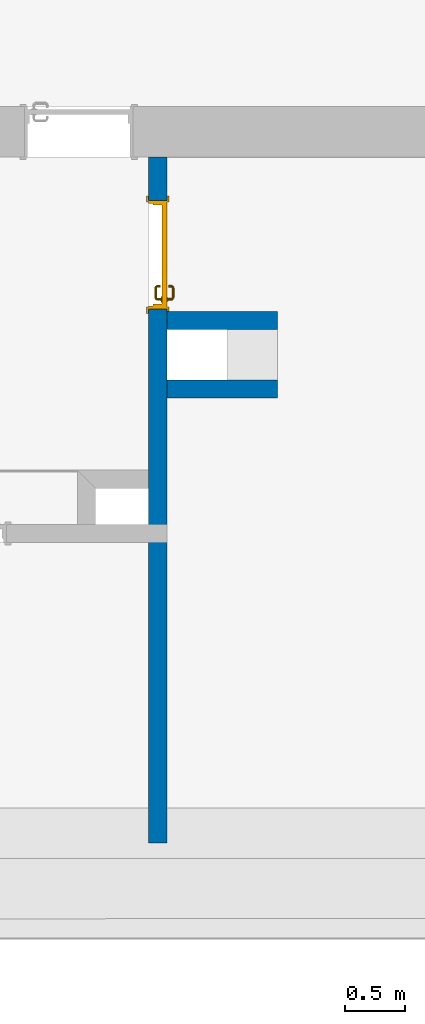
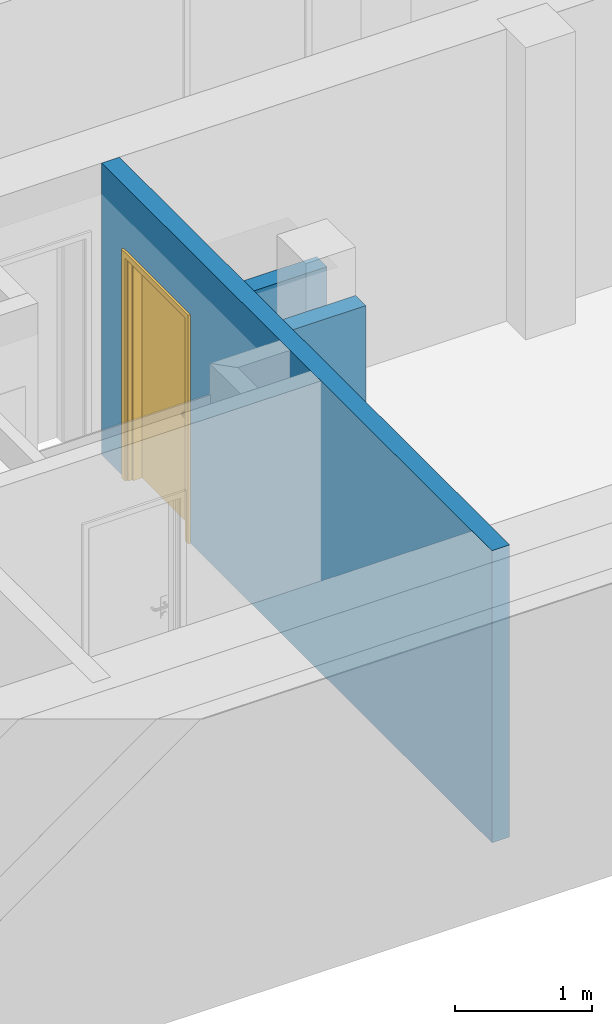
# One storey, part 12 of 127: 3 walls, 1 door, 1 opening.
"""IFC2X3 building model written with IfcOpenShell, lengths in millimetres."""

from ifc_helpers import new_model, entity, si_unit, converted_unit, derived_unit, money_unit, direction, frame, origin_with_axes, origin_2d_with_axis, place, context, subcontext, project, spatial, polyline, rectangle, outline, extrude, open_shell, faceted_brep, surface_model, source, transform, mapped, material, layer, layer_set, layer_usage, type_object, element, fill, save


model = new_model("IFC2X3")

# Units and contexts
model_context = context("Model", 3, precision=1e-05, world=origin_with_axes(), true_north=direction((0.0, 1.0)))
body_context = subcontext(model_context, "Body", "Model", "MODEL_VIEW")
ifc_project = project(units=[si_unit("LENGTHUNIT", "METRE", prefix="MILLI"), si_unit("AREAUNIT", "SQUARE_METRE"), si_unit("VOLUMEUNIT", "CUBIC_METRE"), converted_unit("PLANEANGLEUNIT", "DEGREE", entity("IfcPlaneAngleMeasure", 0.0174532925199), si_unit("PLANEANGLEUNIT", "RADIAN"), dimensions=[0, 0, 0, 0, 0, 0, 0]), si_unit("SOLIDANGLEUNIT", "STERADIAN"), money_unit("EUR"), converted_unit("TIMEUNIT", "Year", entity("IfcTimeMeasure", 31556926.0), si_unit("TIMEUNIT", "SECOND"), dimensions=[0, 0, 1, 0, 0, 0, 0]), si_unit("MASSUNIT", "GRAM", prefix="KILO"), si_unit("THERMODYNAMICTEMPERATUREUNIT", "DEGREE_CELSIUS"), si_unit("LUMINOUSINTENSITYUNIT", "LUMEN"), si_unit("ENERGYUNIT", "JOULE", prefix="MEGA"), derived_unit("THERMALCONDUCTANCEUNIT", [(si_unit("POWERUNIT", "WATT"), 1), (si_unit("LENGTHUNIT", "METRE"), -1), (si_unit("THERMODYNAMICTEMPERATUREUNIT", "KELVIN"), -1)]), derived_unit("SPECIFICHEATCAPACITYUNIT", [(si_unit("ENERGYUNIT", "JOULE"), 1), (si_unit("MASSUNIT", "GRAM", prefix="KILO"), -1), (si_unit("THERMODYNAMICTEMPERATUREUNIT", "KELVIN"), -1)]), derived_unit("MASSDENSITYUNIT", [(si_unit("MASSUNIT", "GRAM", prefix="KILO"), 1), (si_unit("VOLUMEUNIT", "CUBIC_METRE"), -1)])], contexts=[model_context])

# Site, building, storey
site_placement = place(None, origin_with_axes())
site = spatial("IfcSite", under=ifc_project, at=site_placement, Name="Site", CompositionType="ELEMENT")
building_placement = place(site_placement, origin_with_axes())
building = spatial("IfcBuilding", under=site, at=building_placement, Name="Building", CompositionType="ELEMENT")
storey_placement = place(building_placement, origin_with_axes())
storey = spatial("IfcBuildingStorey", under=building, at=storey_placement, Name="1 KORRUS", CompositionType="ELEMENT", Elevation=0.0)

# Wall, opening, door
ifc_material_1 = material(Name="Kivi -Ol.Olev Konstruktsioon")
ifc_layer_1 = layer(ifc_material_1, 150.0, ventilated="UNKNOWN")
ifc_layer_set_1 = layer_set([ifc_layer_1], Name="ol.olev ss 150")
ifc_layer_usage_1 = layer_usage(ifc_layer_set_1, "AXIS2", "POSITIVE", 0.0)
wall_type_1 = type_object("IfcWallType", Name="SW - 036", PredefinedType="NOTDEFINED")
wall_1_placement = place(storey_placement, frame((72327.5755855, 41003.0649281, 0.0), z_axis=(0.0, 0.0, 1.0), x_axis=(0.0, -1.0, 0.0)))
wall_1 = element("IfcWallStandardCase", 1, at=wall_1_placement, inside=storey, type_object=wall_type_1, material=ifc_layer_usage_1, Name="ol.olev ss 150", context=body_context, shape_type="SweptSolid", body=[
    extrude(outline(polyline([(420.0, 0.0), (6112.45494701, 0.0), (6112.44473298, 150.0), (420.0, 150.0), (420.0, 0.0)])), origin_with_axes(), (0.0, 0.0, 1.0), 2600.0),
])
opening_placement = place(wall_1_placement, frame((1229.00000242, 0.0, 0.0), z_axis=(0.0, 0.0, 1.0), x_axis=(1.0, 0.0, 0.0)))
opening = element("IfcOpeningElement", 2, at=opening_placement, cuts=wall_1, Name="Siseuks * Door 22", context=body_context, shape_type="SweptSolid", body=[
    extrude(rectangle(XDim=900.0, YDim=2000.0, at=origin_2d_with_axis()), frame((0.0, -150.0, 1000.0), z_axis=(0.0, -1.0, 0.0), x_axis=(-1.0, 0.0, 0.0)), (0.0, 0.0, -1.0), 450.0),
    extrude(rectangle(XDim=974.0, YDim=2037.0, at=origin_2d_with_axis()), frame((0.0, 0.0, 1018.5), z_axis=(0.0, -1.0, 0.0), x_axis=(-1.0, 0.0, 0.0)), (0.0, 0.0, 1.0), 150.0),
    extrude(rectangle(XDim=974.0, YDim=2037.0, at=origin_2d_with_axis()), frame((0.0, 150.0, 1018.5), z_axis=(0.0, 1.0, 0.0), x_axis=(-1.0, 0.0, 0.0)), (0.0, 0.0, 1.0), 150.0),
])
door_style = type_object("IfcDoorStyle", Name="SU-B126C   900×2\xa0000", ConstructionType="NOTDEFINED", OperationType="SINGLE_SWING_LEFT", ParameterTakesPrecedence=False, Sizeable=False)
shared_shape = source(origin_with_axes(), body_context, "Body", "SurfaceModel", [
    faceted_brep([(450.0, -115.0, 0.0), (450.0, -150.0, 0.0), (425.0, -150.0, 0.0), (425.0, -115.0, 0.0), (450.0, -115.0, 2000.0), (450.0, -150.0, 2000.0), (425.0, -150.0, 1975.0), (425.0, -115.0, 1975.0)], [[[0, 1, 2, 3]], [[4, 5, 1, 0]], [[1, 5, 6, 2]], [[3, 2, 6, 7]], [[0, 3, 7, 4]], [[7, 6, 5, 4]]]),
    faceted_brep([(-450.0, -115.0, 2000.0), (-450.0, -150.0, 2000.0), (-425.0, -150.0, 1975.0), (-425.0, -115.0, 1975.0), (-450.0, -115.0, 0.0), (-450.0, -150.0, 0.0), (-425.0, -150.0, 0.0), (-425.0, -115.0, 0.0)], [[[0, 1, 2, 3]], [[4, 5, 1, 0]], [[1, 5, 6, 2]], [[3, 2, 6, 7]], [[0, 3, 7, 4]], [[7, 6, 5, 4]]]),
    faceted_brep([(425.0, -115.0, 1975.0), (425.0, -150.0, 1975.0), (-425.0, -150.0, 1975.0), (-425.0, -115.0, 1975.0), (450.0, -115.0, 2000.0), (450.0, -150.0, 2000.0), (-450.0, -150.0, 2000.0), (-450.0, -115.0, 2000.0)], [[[0, 1, 2, 3]], [[4, 5, 1, 0]], [[1, 5, 6, 2]], [[3, 2, 6, 7]], [[0, 3, 7, 4]], [[7, 6, 5, 4]]]),
    faceted_brep([(487.0, -169.0, 0.0), (437.0, -169.0, 0.0), (437.0, -150.0, 0.0), (487.0, -150.0, 0.0), (487.0, -169.0, 2037.0), (437.0, -169.0, 1987.0), (437.0, -150.0, 1987.0), (487.0, -150.0, 2037.0)], [[[0, 1, 2, 3]], [[0, 4, 5, 1]], [[1, 5, 6, 2]], [[3, 2, 6, 7]], [[4, 0, 3, 7]], [[5, 4, 7, 6]]]),
    faceted_brep([(-487.0, -169.0, 2037.0), (-437.0, -169.0, 1987.0), (-437.0, -150.0, 1987.0), (-487.0, -150.0, 2037.0), (-487.0, -169.0, 0.0), (-437.0, -169.0, 0.0), (-437.0, -150.0, 0.0), (-487.0, -150.0, 0.0)], [[[0, 1, 2, 3]], [[0, 4, 5, 1]], [[1, 5, 6, 2]], [[3, 2, 6, 7]], [[4, 0, 3, 7]], [[5, 4, 7, 6]]]),
    faceted_brep([(487.0, -169.0, 2037.0), (437.0, -169.0, 1987.0), (437.0, -150.0, 1987.0), (487.0, -150.0, 2037.0), (-487.0, -169.0, 2037.0), (-437.0, -169.0, 1987.0), (-437.0, -150.0, 1987.0), (-487.0, -150.0, 2037.0)], [[[0, 1, 2, 3]], [[0, 4, 5, 1]], [[1, 5, 6, 2]], [[3, 2, 6, 7]], [[4, 0, 3, 7]], [[5, 4, 7, 6]]]),
    faceted_brep([(487.0, 19.0, 0.0), (487.0, 0.0, 0.0), (437.0, 0.0, 0.0), (437.0, 19.0, 0.0), (487.0, 19.0, 2037.0), (487.0, 0.0, 2037.0), (437.0, 0.0, 1987.0), (437.0, 19.0, 1987.0)], [[[0, 1, 2, 3]], [[4, 5, 1, 0]], [[1, 5, 6, 2]], [[3, 2, 6, 7]], [[0, 3, 7, 4]], [[7, 6, 5, 4]]]),
    faceted_brep([(-487.0, 19.0, 2037.0), (-487.0, 0.0, 2037.0), (-437.0, 0.0, 1987.0), (-437.0, 19.0, 1987.0), (-487.0, 19.0, 0.0), (-487.0, 0.0, 0.0), (-437.0, 0.0, 0.0), (-437.0, 19.0, 0.0)], [[[0, 1, 2, 3]], [[4, 5, 1, 0]], [[1, 5, 6, 2]], [[3, 2, 6, 7]], [[0, 3, 7, 4]], [[7, 6, 5, 4]]]),
    faceted_brep([(487.0, 19.0, 2037.0), (487.0, 0.0, 2037.0), (437.0, 0.0, 1987.0), (437.0, 19.0, 1987.0), (-487.0, 19.0, 2037.0), (-487.0, 0.0, 2037.0), (-437.0, 0.0, 1987.0), (-437.0, 19.0, 1987.0)], [[[0, 1, 2, 3]], [[4, 5, 1, 0]], [[1, 5, 6, 2]], [[3, 2, 6, 7]], [[0, 3, 7, 4]], [[7, 6, 5, 4]]]),
    faceted_brep([(410.0, -40.0, 0.0), (410.0, -115.0, 0.0), (410.0, -115.0, 1960.0), (410.0, -40.0, 1960.0), (422.0, -40.0, 0.0), (422.0, 0.0, 0.0), (450.0, 0.0, 0.0), (450.0, -115.0, 0.0), (450.0, -115.0, 1960.0), (422.0, -40.0, 1960.0), (450.0, 0.0, 1960.0), (422.0, 0.0, 1960.0)], [[[0, 1, 2, 3]], [[4, 5, 6, 7, 1, 0]], [[1, 7, 8, 2]], [[9, 3, 2, 8, 10, 11]], [[9, 4, 0, 3]], [[11, 5, 4, 9]], [[11, 10, 6, 5]], [[6, 10, 8, 7]]]),
    faceted_brep([(-422.0, -40.0, 1960.0), (-422.0, 0.0, 1960.0), (-450.0, 0.0, 1960.0), (-450.0, -115.0, 1960.0), (-410.0, -115.0, 1960.0), (-410.0, -40.0, 1960.0), (-422.0, -40.0, 0.0), (-422.0, 0.0, 0.0), (-450.0, 0.0, 0.0), (-450.0, -115.0, 0.0), (-410.0, -115.0, 0.0), (-410.0, -40.0, 0.0)], [[[0, 1, 2, 3, 4, 5]], [[0, 6, 7, 1]], [[7, 8, 2, 1]], [[2, 8, 9, 3]], [[3, 9, 10, 4]], [[5, 4, 10, 11]], [[5, 11, 6, 0]], [[6, 11, 10, 9, 8, 7]]]),
    faceted_brep([(422.0, 0.0, 1972.0), (-422.0, 0.0, 1972.0), (-422.0, 0.0, 1960.0), (-450.0, 0.0, 1960.0), (-450.0, 0.0, 2000.0), (450.0, 0.0, 2000.0), (450.0, 0.0, 1960.0), (422.0, 0.0, 1960.0), (422.0, -40.0, 1972.0), (-422.0, -40.0, 1972.0), (-422.0, -40.0, 1960.0), (-410.0, -40.0, 1960.0), (-410.0, -115.0, 1960.0), (-450.0, -115.0, 1960.0), (-450.0, -115.0, 2000.0), (450.0, -115.0, 2000.0), (450.0, -115.0, 1960.0), (422.0, -40.0, 1960.0), (410.0, -115.0, 1960.0), (410.0, -40.0, 1960.0)], [[[0, 1, 2, 3, 4, 5, 6, 7]], [[0, 8, 9, 1]], [[1, 9, 10, 2]], [[10, 11, 12, 13, 3, 2]], [[4, 3, 13, 14]], [[5, 4, 14, 15]], [[6, 5, 15, 16]], [[17, 7, 6, 16, 18, 19]], [[7, 17, 8, 0]], [[10, 9, 8, 17, 19, 11]], [[19, 18, 12, 11]], [[12, 18, 16, 15, 14, 13]]]),
    faceted_brep([(400.5, -40.0, 1060.0), (343.5, -40.0, 1060.0), (343.5, -43.0, 1060.0), (400.5, -43.0, 1060.0), (400.5, -40.0, 870.0), (343.5, -40.0, 870.0), (343.5, -43.0, 870.0), (400.5, -43.0, 870.0)], [[[0, 1, 2, 3]], [[0, 4, 5, 1]], [[1, 5, 6, 2]], [[3, 2, 6, 7]], [[4, 0, 3, 7]], [[5, 4, 7, 6]]]),
    surface_model("IfcShellBasedSurfaceModel", [(362.0, -53.0, 1000.0), (364.928932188, -53.0, 992.928932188), (364.928932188, -72.303560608, 992.928932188), (362.0, -72.0150859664, 1000.0), (372.0, -53.0, 990.0), (372.0, -73.0, 990.0), (363.816790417, -77.8946748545, 992.928932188), (361.057796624, -76.751862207, 1000.0), (364.928932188, -53.0, 1007.07106781), (364.928932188, -72.303560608, 1007.07106781), (379.071067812, -53.0, 992.928932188), (379.071067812, -73.696439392, 992.928932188), (370.47759065, -80.6536686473, 990.0), (361.044179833, -82.0441798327, 992.928932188), (358.932537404, -79.9325374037, 1000.0), (363.816790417, -77.8946748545, 1007.07106781), (372.0, -53.0, 1010.0), (372.0, -73.0, 1010.0), (382.0, -53.0, 1000.0), (382.0, -73.9849140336, 1000.0), (377.138390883, -83.4126624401, 992.928932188), (366.142135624, -87.1421356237, 990.0), (356.894674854, -84.8167904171, 992.928932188), (355.751862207, -82.0577966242, 1000.0), (361.044179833, -82.0441798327, 1007.07106781), (370.47759065, -80.6536686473, 1010.0), (379.071067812, -53.0, 1007.07106781), (379.071067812, -73.696439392, 1007.07106781), (379.897384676, -84.5554750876, 1000.0), (371.240091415, -92.2400914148, 992.928932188), (359.653668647, -91.4775906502, 990.0), (351.303560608, -85.9289321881, 992.928932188), (351.015085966, -83.0, 1000.0), (356.894674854, -84.8167904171, 1007.07106781), (366.142135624, -87.1421356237, 1010.0), (377.138390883, -83.4126624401, 1007.07106781), (373.351733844, -94.3517338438, 1000.0), (362.41266244, -98.1383908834, 992.928932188), (352.0, -93.0, 990.0), (282.696439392, -85.9289321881, 992.928932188), (282.984914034, -83.0, 1000.0), (351.303560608, -85.9289321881, 1007.07106781), (359.653668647, -91.4775906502, 1010.0), (371.240091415, -92.2400914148, 1007.07106781), (363.555475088, -100.897384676, 1000.0), (352.696439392, -100.071067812, 992.928932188), (282.0, -93.0, 990.0), (277.105325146, -84.8167904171, 992.928932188), (278.248137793, -82.0577966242, 1000.0), (282.696439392, -85.9289321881, 1007.07106781), (352.0, -93.0, 1010.0), (362.41266244, -98.1383908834, 1007.07106781), (352.984914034, -103.0, 1000.0), (281.303560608, -100.071067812, 992.928932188), (274.346331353, -91.4775906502, 990.0), (272.955820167, -82.0441798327, 992.928932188), (275.067462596, -79.9325374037, 1000.0), (277.105325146, -84.8167904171, 1007.07106781), (282.0, -93.0, 1010.0), (352.696439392, -100.071067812, 1007.07106781), (281.015085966, -103.0, 1000.0), (271.58733756, -98.1383908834, 992.928932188), (267.857864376, -87.1421356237, 990.0), (270.183209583, -77.8946748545, 992.928932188), (272.942203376, -76.751862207, 1000.0), (272.955820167, -82.0441798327, 1007.07106781), (274.346331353, -91.4775906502, 1010.0), (281.303560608, -100.071067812, 1007.07106781), (270.444524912, -100.897384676, 1000.0), (262.759908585, -92.2400914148, 992.928932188), (263.52240935, -80.6536686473, 990.0), (269.071067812, -72.303560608, 992.928932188), (272.0, -72.0150859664, 1000.0), (270.183209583, -77.8946748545, 1007.07106781), (267.857864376, -87.1421356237, 1010.0), (271.58733756, -98.1383908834, 1007.07106781), (260.648266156, -94.3517338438, 1000.0), (256.861609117, -83.4126624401, 992.928932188), (262.0, -73.0, 990.0), (269.071067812, -53.0, 992.928932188), (272.0, -53.0, 1000.0), (269.071067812, -72.303560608, 1007.07106781), (263.52240935, -80.6536686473, 1010.0), (262.759908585, -92.2400914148, 1007.07106781), (254.102615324, -84.5554750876, 1000.0), (254.928932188, -73.696439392, 992.928932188), (262.0, -53.0, 990.0), (254.928932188, -53.0, 992.928932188), (252.0, -53.0, 1000.0), (254.928932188, -53.0, 1007.07106781), (262.0, -53.0, 1010.0), (269.071067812, -53.0, 1007.07106781), (262.0, -73.0, 1010.0), (256.861609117, -83.4126624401, 1007.07106781), (252.0, -73.9849140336, 1000.0), (254.928932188, -73.696439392, 1007.07106781)], [open_shell([[[0, 1, 2, 3]], [[1, 4, 5, 2]], [[3, 2, 6, 7]], [[8, 0, 3, 9]], [[4, 10, 11, 5]], [[2, 5, 12, 6]], [[7, 6, 13, 14]], [[9, 3, 7, 15]], [[16, 8, 9, 17]], [[10, 18, 19, 11]], [[5, 11, 20, 12]], [[6, 12, 21, 13]], [[14, 13, 22, 23]], [[15, 7, 14, 24]], [[17, 9, 15, 25]], [[26, 16, 17, 27]], [[18, 26, 27, 19]], [[11, 19, 28, 20]], [[12, 20, 29, 21]], [[13, 21, 30, 22]], [[23, 22, 31, 32]], [[24, 14, 23, 33]], [[25, 15, 24, 34]], [[27, 17, 25, 35]], [[19, 27, 35, 28]], [[20, 28, 36, 29]], [[21, 29, 37, 30]], [[22, 30, 38, 31]], [[32, 31, 39, 40]], [[33, 23, 32, 41]], [[34, 24, 33, 42]], [[35, 25, 34, 43]], [[28, 35, 43, 36]], [[29, 36, 44, 37]], [[30, 37, 45, 38]], [[31, 38, 46, 39]], [[40, 39, 47, 48]], [[41, 32, 40, 49]], [[42, 33, 41, 50]], [[43, 34, 42, 51]], [[36, 43, 51, 44]], [[37, 44, 52, 45]], [[38, 45, 53, 46]], [[39, 46, 54, 47]], [[48, 47, 55, 56]], [[49, 40, 48, 57]], [[50, 41, 49, 58]], [[51, 42, 50, 59]], [[44, 51, 59, 52]], [[45, 52, 60, 53]], [[46, 53, 61, 54]], [[47, 54, 62, 55]], [[56, 55, 63, 64]], [[57, 48, 56, 65]], [[58, 49, 57, 66]], [[59, 50, 58, 67]], [[52, 59, 67, 60]], [[53, 60, 68, 61]], [[54, 61, 69, 62]], [[55, 62, 70, 63]], [[64, 63, 71, 72]], [[65, 56, 64, 73]], [[66, 57, 65, 74]], [[67, 58, 66, 75]], [[60, 67, 75, 68]], [[61, 68, 76, 69]], [[62, 69, 77, 70]], [[63, 70, 78, 71]], [[72, 71, 79, 80]], [[73, 64, 72, 81]], [[74, 65, 73, 82]], [[75, 66, 74, 83]], [[68, 75, 83, 76]], [[69, 76, 84, 77]], [[70, 77, 85, 78]], [[71, 78, 86, 79]], [[80, 79, 86, 87, 88, 89, 90, 91]], [[81, 72, 80, 91]], [[82, 73, 81, 92]], [[83, 74, 82, 93]], [[76, 83, 93, 84]], [[77, 84, 94, 85]], [[78, 85, 87, 86]], [[85, 94, 88, 87]], [[94, 95, 89, 88]], [[95, 92, 90, 89]], [[92, 81, 91, 90]], [[93, 82, 92, 95]], [[84, 93, 95, 94]]])]),
    faceted_brep([(361.607695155, -53.0, 994.0), (360.0, -53.0, 1000.0), (359.0, -43.0, 1000.0), (360.741669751, -43.0, 993.5), (366.0, -53.0, 989.607695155), (372.0, -53.0, 988.0), (378.0, -53.0, 989.607695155), (382.392304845, -53.0, 994.0), (384.0, -53.0, 1000.0), (382.392304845, -53.0, 1006.0), (378.0, -53.0, 1010.39230485), (372.0, -53.0, 1012.0), (366.0, -53.0, 1010.39230485), (361.607695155, -53.0, 1006.0), (360.741669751, -43.0, 1006.5), (365.5, -43.0, 1011.25833025), (372.0, -43.0, 1013.0), (378.5, -43.0, 1011.25833025), (383.258330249, -43.0, 1006.5), (385.0, -43.0, 1000.0), (383.258330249, -43.0, 993.5), (378.5, -43.0, 988.741669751), (372.0, -43.0, 987.0), (365.5, -43.0, 988.741669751)], [[[0, 1, 2, 3]], [[1, 0, 4, 5, 6, 7, 8, 9, 10, 11, 12, 13]], [[1, 13, 14, 2]], [[2, 14, 15, 16, 17, 18, 19, 20, 21, 22, 23, 3]], [[4, 0, 3, 23]], [[5, 4, 23, 22]], [[6, 5, 22, 21]], [[7, 6, 21, 20]], [[8, 7, 20, 19]], [[9, 8, 19, 18]], [[10, 9, 18, 17]], [[11, 10, 17, 16]], [[12, 11, 16, 15]], [[13, 12, 15, 14]]]),
    faceted_brep([(354.679491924, -47.0, 895.0), (352.0, -47.0, 905.0), (350.0, -43.0, 905.0), (352.947441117, -43.0, 894.0), (362.0, -47.0, 887.679491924), (372.0, -47.0, 885.0), (382.0, -47.0, 887.679491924), (389.320508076, -47.0, 895.0), (392.0, -47.0, 905.0), (389.320508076, -47.0, 915.0), (382.0, -47.0, 922.320508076), (372.0, -47.0, 925.0), (362.0, -47.0, 922.320508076), (354.679491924, -47.0, 915.0), (352.947441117, -43.0, 916.0), (361.0, -43.0, 924.052558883), (372.0, -43.0, 927.0), (383.0, -43.0, 924.052558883), (391.052558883, -43.0, 916.0), (394.0, -43.0, 905.0), (391.052558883, -43.0, 894.0), (383.0, -43.0, 885.947441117), (372.0, -43.0, 883.0), (361.0, -43.0, 885.947441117)], [[[0, 1, 2, 3]], [[1, 0, 4, 5, 6, 7, 8, 9, 10, 11, 12, 13]], [[1, 13, 14, 2]], [[2, 14, 15, 16, 17, 18, 19, 20, 21, 22, 23, 3]], [[4, 0, 3, 23]], [[5, 4, 23, 22]], [[6, 5, 22, 21]], [[7, 6, 21, 20]], [[8, 7, 20, 19]], [[9, 8, 19, 18]], [[10, 9, 18, 17]], [[11, 10, 17, 16]], [[12, 11, 16, 15]], [[13, 12, 15, 14]]]),
    faceted_brep([(367.050252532, -49.0, 909.050252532), (365.0, -49.0, 914.0), (364.0, -47.0, 914.0), (366.343145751, -47.0, 908.343145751), (372.0, -49.0, 907.0), (376.949747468, -49.0, 909.050252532), (379.0, -49.0, 914.0), (376.949747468, -49.0, 918.949747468), (372.0, -49.0, 921.0), (367.050252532, -49.0, 918.949747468), (366.343145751, -47.0, 919.656854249), (372.0, -47.0, 922.0), (377.656854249, -47.0, 919.656854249), (380.0, -47.0, 914.0), (377.656854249, -47.0, 908.343145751), (372.0, -47.0, 906.0)], [[[0, 1, 2, 3]], [[1, 0, 4, 5, 6, 7, 8, 9]], [[1, 9, 10, 2]], [[2, 10, 11, 12, 13, 14, 15, 3]], [[4, 0, 3, 15]], [[5, 4, 15, 14]], [[6, 5, 14, 13]], [[7, 6, 13, 12]], [[8, 7, 12, 11]], [[9, 8, 11, 10]]]),
    faceted_brep([(400.5, 0.0, 1060.0), (400.5, 3.0, 1060.0), (343.5, 3.0, 1060.0), (343.5, 0.0, 1060.0), (400.5, 0.0, 870.0), (400.5, 3.0, 870.0), (343.5, 3.0, 870.0), (343.5, 0.0, 870.0)], [[[0, 1, 2, 3]], [[4, 5, 1, 0]], [[1, 5, 6, 2]], [[3, 2, 6, 7]], [[0, 3, 7, 4]], [[7, 6, 5, 4]]]),
    surface_model("IfcShellBasedSurfaceModel", [(362.0, 13.0, 1000.0), (362.0, 32.0150859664, 1000.0), (364.928932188, 32.303560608, 992.928932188), (364.928932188, 13.0, 992.928932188), (364.928932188, 13.0, 1007.07106781), (364.928932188, 32.303560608, 1007.07106781), (361.057796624, 36.751862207, 1000.0), (363.816790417, 37.8946748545, 992.928932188), (372.0, 33.0, 990.0), (372.0, 13.0, 990.0), (372.0, 13.0, 1010.0), (372.0, 33.0, 1010.0), (363.816790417, 37.8946748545, 1007.07106781), (358.932537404, 39.9325374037, 1000.0), (361.044179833, 42.0441798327, 992.928932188), (370.47759065, 40.6536686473, 990.0), (379.071067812, 33.696439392, 992.928932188), (379.071067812, 13.0, 992.928932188), (379.071067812, 13.0, 1007.07106781), (379.071067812, 33.696439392, 1007.07106781), (370.47759065, 40.6536686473, 1010.0), (361.044179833, 42.0441798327, 1007.07106781), (355.751862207, 42.0577966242, 1000.0), (356.894674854, 44.8167904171, 992.928932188), (366.142135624, 47.1421356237, 990.0), (377.138390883, 43.4126624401, 992.928932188), (382.0, 33.9849140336, 1000.0), (382.0, 13.0, 1000.0), (377.138390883, 43.4126624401, 1007.07106781), (366.142135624, 47.1421356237, 1010.0), (356.894674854, 44.8167904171, 1007.07106781), (351.015085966, 43.0, 1000.0), (351.303560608, 45.9289321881, 992.928932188), (359.653668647, 51.4775906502, 990.0), (371.240091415, 52.2400914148, 992.928932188), (379.897384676, 44.5554750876, 1000.0), (371.240091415, 52.2400914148, 1007.07106781), (359.653668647, 51.4775906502, 1010.0), (351.303560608, 45.9289321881, 1007.07106781), (282.984914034, 43.0, 1000.0), (282.696439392, 45.9289321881, 992.928932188), (352.0, 53.0, 990.0), (362.41266244, 58.1383908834, 992.928932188), (373.351733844, 54.3517338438, 1000.0), (362.41266244, 58.1383908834, 1007.07106781), (352.0, 53.0, 1010.0), (282.696439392, 45.9289321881, 1007.07106781), (278.248137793, 42.0577966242, 1000.0), (277.105325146, 44.8167904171, 992.928932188), (282.0, 53.0, 990.0), (352.696439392, 60.0710678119, 992.928932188), (363.555475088, 60.8973846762, 1000.0), (352.696439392, 60.0710678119, 1007.07106781), (282.0, 53.0, 1010.0), (277.105325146, 44.8167904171, 1007.07106781), (275.067462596, 39.9325374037, 1000.0), (272.955820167, 42.0441798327, 992.928932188), (274.346331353, 51.4775906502, 990.0), (281.303560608, 60.0710678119, 992.928932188), (352.984914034, 63.0, 1000.0), (281.303560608, 60.0710678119, 1007.07106781), (274.346331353, 51.4775906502, 1010.0), (272.955820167, 42.0441798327, 1007.07106781), (272.942203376, 36.751862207, 1000.0), (270.183209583, 37.8946748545, 992.928932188), (267.857864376, 47.1421356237, 990.0), (271.58733756, 58.1383908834, 992.928932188), (281.015085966, 63.0, 1000.0), (271.58733756, 58.1383908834, 1007.07106781), (267.857864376, 47.1421356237, 1010.0), (270.183209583, 37.8946748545, 1007.07106781), (272.0, 32.0150859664, 1000.0), (269.071067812, 32.303560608, 992.928932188), (263.52240935, 40.6536686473, 990.0), (262.759908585, 52.2400914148, 992.928932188), (270.444524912, 60.8973846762, 1000.0), (262.759908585, 52.2400914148, 1007.07106781), (263.52240935, 40.6536686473, 1010.0), (269.071067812, 32.303560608, 1007.07106781), (272.0, 13.0, 1000.0), (269.071067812, 13.0, 992.928932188), (262.0, 33.0, 990.0), (256.861609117, 43.4126624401, 992.928932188), (260.648266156, 54.3517338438, 1000.0), (256.861609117, 43.4126624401, 1007.07106781), (262.0, 33.0, 1010.0), (269.071067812, 13.0, 1007.07106781), (262.0, 13.0, 1010.0), (254.928932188, 13.0, 1007.07106781), (252.0, 13.0, 1000.0), (254.928932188, 13.0, 992.928932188), (262.0, 13.0, 990.0), (254.928932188, 33.696439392, 992.928932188), (254.102615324, 44.5554750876, 1000.0), (254.928932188, 33.696439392, 1007.07106781), (252.0, 33.9849140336, 1000.0)], [open_shell([[[0, 1, 2, 3]], [[4, 5, 1, 0]], [[1, 6, 7, 2]], [[3, 2, 8, 9]], [[10, 11, 5, 4]], [[5, 12, 6, 1]], [[6, 13, 14, 7]], [[2, 7, 15, 8]], [[9, 8, 16, 17]], [[18, 19, 11, 10]], [[11, 20, 12, 5]], [[12, 21, 13, 6]], [[13, 22, 23, 14]], [[7, 14, 24, 15]], [[8, 15, 25, 16]], [[17, 16, 26, 27]], [[27, 26, 19, 18]], [[19, 28, 20, 11]], [[20, 29, 21, 12]], [[21, 30, 22, 13]], [[22, 31, 32, 23]], [[14, 23, 33, 24]], [[15, 24, 34, 25]], [[16, 25, 35, 26]], [[26, 35, 28, 19]], [[28, 36, 29, 20]], [[29, 37, 30, 21]], [[30, 38, 31, 22]], [[31, 39, 40, 32]], [[23, 32, 41, 33]], [[24, 33, 42, 34]], [[25, 34, 43, 35]], [[35, 43, 36, 28]], [[36, 44, 37, 29]], [[37, 45, 38, 30]], [[38, 46, 39, 31]], [[39, 47, 48, 40]], [[32, 40, 49, 41]], [[33, 41, 50, 42]], [[34, 42, 51, 43]], [[43, 51, 44, 36]], [[44, 52, 45, 37]], [[45, 53, 46, 38]], [[46, 54, 47, 39]], [[47, 55, 56, 48]], [[40, 48, 57, 49]], [[41, 49, 58, 50]], [[42, 50, 59, 51]], [[51, 59, 52, 44]], [[52, 60, 53, 45]], [[53, 61, 54, 46]], [[54, 62, 55, 47]], [[55, 63, 64, 56]], [[48, 56, 65, 57]], [[49, 57, 66, 58]], [[50, 58, 67, 59]], [[59, 67, 60, 52]], [[60, 68, 61, 53]], [[61, 69, 62, 54]], [[62, 70, 63, 55]], [[63, 71, 72, 64]], [[56, 64, 73, 65]], [[57, 65, 74, 66]], [[58, 66, 75, 67]], [[67, 75, 68, 60]], [[68, 76, 69, 61]], [[69, 77, 70, 62]], [[70, 78, 71, 63]], [[71, 79, 80, 72]], [[64, 72, 81, 73]], [[65, 73, 82, 74]], [[66, 74, 83, 75]], [[75, 83, 76, 68]], [[76, 84, 77, 69]], [[77, 85, 78, 70]], [[78, 86, 79, 71]], [[79, 86, 87, 88, 89, 90, 91, 80]], [[72, 80, 91, 81]], [[73, 81, 92, 82]], [[74, 82, 93, 83]], [[83, 93, 84, 76]], [[84, 94, 85, 77]], [[85, 87, 86, 78]], [[94, 88, 87, 85]], [[95, 89, 88, 94]], [[92, 90, 89, 95]], [[81, 91, 90, 92]], [[82, 92, 95, 93]], [[93, 95, 94, 84]]])]),
    faceted_brep([(361.607695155, 13.0, 994.0), (360.741669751, 3.0, 993.5), (359.0, 3.0, 1000.0), (360.0, 13.0, 1000.0), (366.0, 13.0, 989.607695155), (365.5, 3.0, 988.741669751), (372.0, 3.0, 987.0), (378.5, 3.0, 988.741669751), (383.258330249, 3.0, 993.5), (385.0, 3.0, 1000.0), (383.258330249, 3.0, 1006.5), (378.5, 3.0, 1011.25833025), (372.0, 3.0, 1013.0), (365.5, 3.0, 1011.25833025), (360.741669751, 3.0, 1006.5), (361.607695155, 13.0, 1006.0), (366.0, 13.0, 1010.39230485), (372.0, 13.0, 1012.0), (378.0, 13.0, 1010.39230485), (382.392304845, 13.0, 1006.0), (384.0, 13.0, 1000.0), (382.392304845, 13.0, 994.0), (378.0, 13.0, 989.607695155), (372.0, 13.0, 988.0)], [[[0, 1, 2, 3]], [[4, 5, 1, 0]], [[2, 1, 5, 6, 7, 8, 9, 10, 11, 12, 13, 14]], [[3, 2, 14, 15]], [[3, 15, 16, 17, 18, 19, 20, 21, 22, 23, 4, 0]], [[23, 6, 5, 4]], [[22, 7, 6, 23]], [[21, 8, 7, 22]], [[20, 9, 8, 21]], [[19, 10, 9, 20]], [[18, 11, 10, 19]], [[17, 12, 11, 18]], [[16, 13, 12, 17]], [[15, 14, 13, 16]]]),
    faceted_brep([(354.679491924, 7.0, 895.0), (352.947441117, 3.0, 894.0), (350.0, 3.0, 905.0), (352.0, 7.0, 905.0), (362.0, 7.0, 887.679491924), (361.0, 3.0, 885.947441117), (372.0, 3.0, 883.0), (383.0, 3.0, 885.947441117), (391.052558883, 3.0, 894.0), (394.0, 3.0, 905.0), (391.052558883, 3.0, 916.0), (383.0, 3.0, 924.052558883), (372.0, 3.0, 927.0), (361.0, 3.0, 924.052558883), (352.947441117, 3.0, 916.0), (354.679491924, 7.0, 915.0), (362.0, 7.0, 922.320508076), (372.0, 7.0, 925.0), (382.0, 7.0, 922.320508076), (389.320508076, 7.0, 915.0), (392.0, 7.0, 905.0), (389.320508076, 7.0, 895.0), (382.0, 7.0, 887.679491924), (372.0, 7.0, 885.0)], [[[0, 1, 2, 3]], [[4, 5, 1, 0]], [[2, 1, 5, 6, 7, 8, 9, 10, 11, 12, 13, 14]], [[3, 2, 14, 15]], [[3, 15, 16, 17, 18, 19, 20, 21, 22, 23, 4, 0]], [[23, 6, 5, 4]], [[22, 7, 6, 23]], [[21, 8, 7, 22]], [[20, 9, 8, 21]], [[19, 10, 9, 20]], [[18, 11, 10, 19]], [[17, 12, 11, 18]], [[16, 13, 12, 17]], [[15, 14, 13, 16]]]),
    faceted_brep([(367.050252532, 9.0, 909.050252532), (366.343145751, 7.0, 908.343145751), (364.0, 7.0, 914.0), (365.0, 9.0, 914.0), (372.0, 9.0, 907.0), (372.0, 7.0, 906.0), (377.656854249, 7.0, 908.343145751), (380.0, 7.0, 914.0), (377.656854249, 7.0, 919.656854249), (372.0, 7.0, 922.0), (366.343145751, 7.0, 919.656854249), (367.050252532, 9.0, 918.949747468), (372.0, 9.0, 921.0), (376.949747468, 9.0, 918.949747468), (379.0, 9.0, 914.0), (376.949747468, 9.0, 909.050252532)], [[[0, 1, 2, 3]], [[4, 5, 1, 0]], [[2, 1, 5, 6, 7, 8, 9, 10]], [[3, 2, 10, 11]], [[3, 11, 12, 13, 14, 15, 4, 0]], [[15, 6, 5, 4]], [[14, 7, 6, 15]], [[13, 8, 7, 14]], [[12, 9, 8, 13]], [[11, 10, 9, 12]]]),
    faceted_brep([(-422.0, 0.0, 0.0), (422.0, 0.0, 0.0), (422.0, -40.0, 0.0), (-422.0, -40.0, 0.0), (-422.0, 0.0, 1972.0), (422.0, 0.0, 1972.0), (422.0, -40.0, 1972.0), (-422.0, -40.0, 1972.0)], [[[0, 1, 2, 3]], [[0, 4, 5, 1]], [[1, 5, 6, 2]], [[3, 2, 6, 7]], [[4, 0, 3, 7]], [[5, 4, 7, 6]]]),
])
door_placement = place(opening_placement, frame((-450.0, 0.0, 0.0), z_axis=(0.0, 0.0, 1.0), x_axis=(1.0, 0.0, 0.0)))
door = element("IfcDoor", 3, at=door_placement, inside=storey, type_object=door_style, Name="Siseuks * Door 22", OverallHeight=2000.0, OverallWidth=900.0, context=body_context, shape_type="MappedRepresentation", body=[
    mapped(shared_shape, transform((450.0, 150.0, 0.0))),
])
fill(opening, door)

# Walls
ifc_material_2 = material(Name="Kivi -  Uus Konstruktsioon")
ifc_layer_2 = layer(ifc_material_2, 150.0, ventilated="UNKNOWN")
ifc_layer_set_2 = layer_set([ifc_layer_2], Name="uus ss 150")
ifc_layer_usage_2 = layer_usage(ifc_layer_set_2, "AXIS2", "NEGATIVE", 0.0)
wall_type_2 = type_object("IfcWallType", Name="SS-1*", PredefinedType="NOTDEFINED")
wall_2_placement = place(storey_placement, frame((73397.5755855, 38581.7373943, 0.0), z_axis=(0.0, 0.0, 1.0), x_axis=(-1.0, 0.0, 0.0)))
element("IfcWallStandardCase", 4, at=wall_2_placement, inside=storey, type_object=wall_type_2, material=ifc_layer_usage_2, Name="uus ss 150", context=body_context, shape_type="SweptSolid", body=[
    extrude(outline(polyline([(0.0, -150.0), (920.0, -150.0), (920.0, 0.0), (0.0, 0.0), (0.0, -150.0)])), origin_with_axes(), (0.0, 0.0, 1.0), 2170.0),
])
ifc_layer_usage_3 = layer_usage(ifc_layer_set_2, "AXIS2", "POSITIVE", 0.0)
wall_3_placement = place(storey_placement, frame((73397.5755855, 39301.7373943, 0.0), z_axis=(0.0, 0.0, 1.0), x_axis=(-1.0, 0.0, 0.0)))
element("IfcWallStandardCase", 5, at=wall_3_placement, inside=storey, type_object=wall_type_2, material=ifc_layer_usage_3, Name="uus ss 150", context=body_context, shape_type="SweptSolid", body=[
    extrude(outline(polyline([(0.0, 0.0), (920.0, 0.0), (920.0, 150.0), (0.0, 150.0), (0.0, 0.0)])), origin_with_axes(), (0.0, 0.0, 1.0), 2170.0),
])

save(model, "model.ifc")
